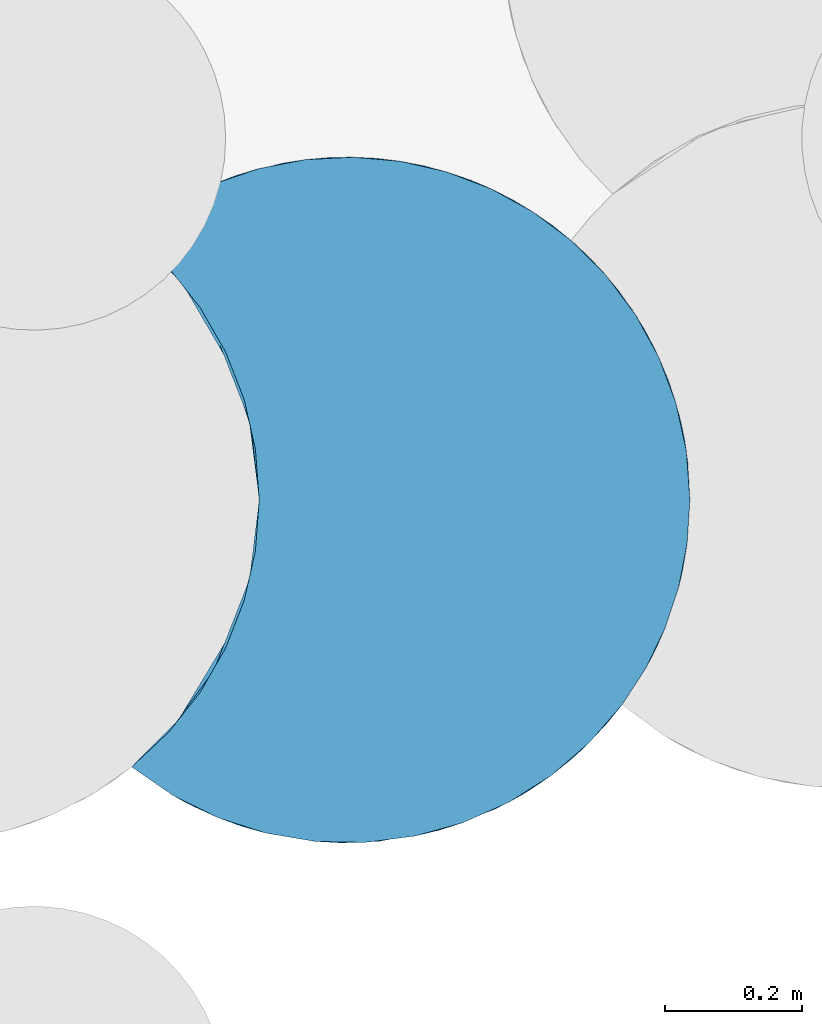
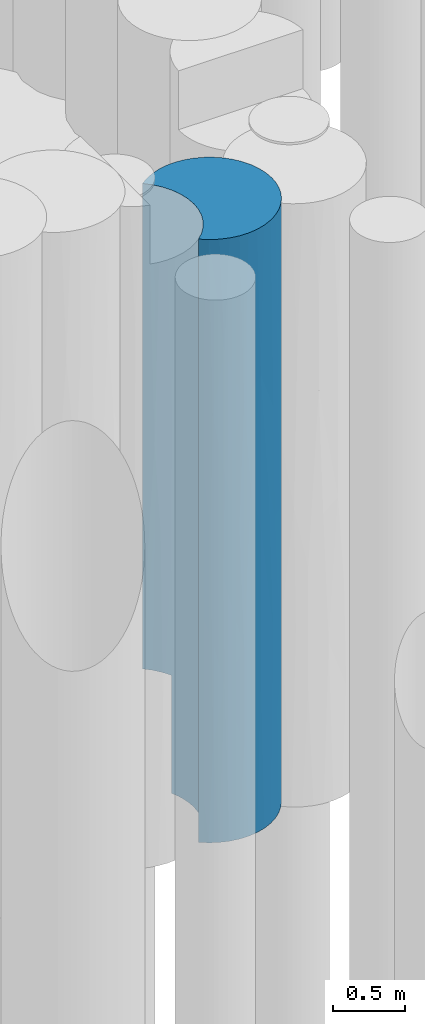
# One storey, part 24 of 104: 1 pile.
"""IFC2X3 building model written with IfcOpenShell, lengths in millimetres."""

from ifc_helpers import new_model, entity, si_unit, converted_unit, derived_unit, direction, frame, origin, place, context, subcontext, project, spatial, faceted_brep, source, transform, mapped, material, element, save


model = new_model("IFC2X3")

# Units and contexts
model_context = context("Model", 3, precision=0.01, world=origin(), true_north=direction((6.12303176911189e-17, 1.0)))
body_context = subcontext(model_context, "Body", "Model", "MODEL_VIEW")
ifc_project = project(units=[si_unit("LENGTHUNIT", "METRE", prefix="MILLI"), si_unit("AREAUNIT", "SQUARE_METRE", prefix="MILLI"), si_unit("VOLUMEUNIT", "CUBIC_METRE"), converted_unit("PLANEANGLEUNIT", "DEGREE", entity("IfcRatioMeasure", 0.0174532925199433), si_unit("PLANEANGLEUNIT", "RADIAN"), dimensions=[0, 0, 0, 0, 0, 0, 0]), si_unit("MASSUNIT", "GRAM", prefix="KILO"), derived_unit("MASSDENSITYUNIT", [(si_unit("MASSUNIT", "GRAM", prefix="KILO"), 1), (si_unit("LENGTHUNIT", "METRE"), -3)]), derived_unit("MOMENTOFINERTIAUNIT", [(si_unit("LENGTHUNIT", "METRE"), 4)]), si_unit("TIMEUNIT", "SECOND"), si_unit("FREQUENCYUNIT", "HERTZ"), si_unit("THERMODYNAMICTEMPERATUREUNIT", "DEGREE_CELSIUS"), derived_unit("THERMALTRANSMITTANCEUNIT", [(si_unit("MASSUNIT", "GRAM", prefix="KILO"), 1), (si_unit("THERMODYNAMICTEMPERATUREUNIT", "KELVIN"), -1), (si_unit("TIMEUNIT", "SECOND"), -3)]), derived_unit("VOLUMETRICFLOWRATEUNIT", [(si_unit("LENGTHUNIT", "METRE"), 3), (si_unit("TIMEUNIT", "SECOND"), -1)]), si_unit("ELECTRICCURRENTUNIT", "AMPERE"), si_unit("ELECTRICVOLTAGEUNIT", "VOLT"), si_unit("POWERUNIT", "WATT"), si_unit("FORCEUNIT", "NEWTON", prefix="KILO"), si_unit("ILLUMINANCEUNIT", "LUX"), si_unit("LUMINOUSFLUXUNIT", "LUMEN"), si_unit("LUMINOUSINTENSITYUNIT", "CANDELA"), derived_unit("USERDEFINED", [(si_unit("MASSUNIT", "GRAM", prefix="KILO"), -1), (si_unit("LENGTHUNIT", "METRE"), -2), (si_unit("TIMEUNIT", "SECOND"), 3), (si_unit("LUMINOUSFLUXUNIT", "LUMEN"), 1)]), derived_unit("LINEARVELOCITYUNIT", [(si_unit("LENGTHUNIT", "METRE"), 1), (si_unit("TIMEUNIT", "SECOND"), -1)]), si_unit("PRESSUREUNIT", "PASCAL"), derived_unit("USERDEFINED", [(si_unit("LENGTHUNIT", "METRE"), -2), (si_unit("MASSUNIT", "GRAM", prefix="KILO"), 1), (si_unit("TIMEUNIT", "SECOND"), -2)]), derived_unit("LINEARFORCEUNIT", [(si_unit("MASSUNIT", "GRAM", prefix="KILO"), 1), (si_unit("LENGTHUNIT", "METRE"), 1), (si_unit("TIMEUNIT", "SECOND"), -2), (si_unit("LENGTHUNIT", "METRE"), -1)]), derived_unit("PLANARFORCEUNIT", [(si_unit("MASSUNIT", "GRAM", prefix="KILO"), 1), (si_unit("LENGTHUNIT", "METRE"), 1), (si_unit("TIMEUNIT", "SECOND"), -2), (si_unit("LENGTHUNIT", "METRE"), -2)])], contexts=[model_context])

# Site, building, storey
site_placement = place(None, origin())
site = spatial("IfcSite", under=ifc_project, at=site_placement, Name="Theater aan de Parade", CompositionType="ELEMENT")
building_placement = place(site_placement, origin())
building = spatial("IfcBuilding", under=site, at=building_placement, Name="Theater aan de Parade", CompositionType="ELEMENT")
storey_placement = place(building_placement, frame((0.0, 0.0, -5520.0)))
storey = spatial("IfcBuildingStorey", under=building, at=storey_placement, Name="-2 kelder", CompositionType="ELEMENT", Elevation=-5520.0)

# Pile
ifc_material = material(Name="00_PBT_MAT_grout")
shared_shape = source(origin(), body_context, "Body", "Brep", [
    faceted_brep([(802.676759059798, 613.817206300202, 0.0), (812.351470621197, 557.756044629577, 0.0), (815.595272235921, 500.894112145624, 0.0), (811.507445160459, 437.088808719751, 0.0), (799.31872967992, 374.357094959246, 0.0), (779.228474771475, 313.693007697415, 0.0), (751.566182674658, 256.089362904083, 0.0), (716.786471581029, 202.494953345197, 0.0), (668.963732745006, 147.155888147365, 0.0), (613.587772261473, 99.3963289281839, 0.0), (551.838271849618, 60.225024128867, 0.0), (485.03597753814, 30.4795637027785, 0.0), (414.609625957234, 10.7960018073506, 0.0), (342.065415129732, 1.5952722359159, 0.0), (268.954822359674, 3.07419647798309, 0.0), (196.841455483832, 15.2012760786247, 0.0), (127.267656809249, 37.7173540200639, 0.0), (61.7215557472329, 70.1411248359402, 0.0), (1.59527223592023, 111.787442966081, 0.0), (55.7556313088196, 162.577766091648, 0.0), (101.797316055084, 220.828643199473, 0.0), (138.705014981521, 285.255525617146, 0.0), (165.664839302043, 354.437671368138, 0.0), (182.082270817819, 426.849475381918, 0.0), (187.595272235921, 500.894112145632, 0.0), (184.351856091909, 557.752676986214, 0.0), (174.676819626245, 613.81694505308, 0.0), (158.690674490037, 668.432531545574, 0.0), (136.594158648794, 720.894112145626, 0.0), (764.594158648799, 720.894112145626, 0.0), (786.69119586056, 668.431065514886, 0.0), (805.825384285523, 599.252829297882, 1039.75634972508), (764.594158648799, 720.894112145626, 1000.0), (58.6019255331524, 929.793190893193, 5120.0), (120.569753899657, 961.290731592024, 5120.0), (153.0447114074, 973.733741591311, 4090.39334880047), (800.033546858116, 624.666314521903, 2060.76883677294), (748.819575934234, 750.527248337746, 2097.97228114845), (806.975217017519, 593.337337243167, 3059.23111048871), (815.595272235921, 500.894112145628, 3558.46227294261), (815.595272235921, 500.894112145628, 2560.0), (815.595272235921, 500.894112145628, 5120.0), (808.008873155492, 587.663033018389, 3949.17916174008), (58.6015014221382, 929.792936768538, 1000.0), (153.044494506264, 973.733667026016, 2180.08766791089), (120.569444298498, 961.290600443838, 1000.0), (323.950264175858, 1000.82430138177, 1000.0), (289.180741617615, 1000.19589721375, 2180.08523891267), (393.252174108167, 994.826704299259, 2154.98836178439), (462.719558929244, 978.758574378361, 3976.74491624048), (525.884942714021, 954.521993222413, 5120.0), (556.906595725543, 938.808310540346, 3718.14073271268), (646.353571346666, 875.859373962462, 3187.27820471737), (688.965437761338, 833.451955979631, 2170.49412444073), (615.309965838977, 901.107933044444, 2380.42968834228), (737.460872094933, 769.277076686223, 3981.33112694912), (783.947191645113, 675.955471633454, 3656.32886688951), (711.496081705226, 806.283288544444, 3057.17326025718), (642.407403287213, 879.303719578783, 1000.0), (586.762276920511, 920.975598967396, 1000.0), (493.847843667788, 968.040792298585, 2104.37299684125), (516.715611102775, 958.66109358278, 2947.87411681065), (1.59527223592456, 890.000781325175, 2561.53770970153), (113.732404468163, 958.334143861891, 3135.24093653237), (815.595272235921, 500.894112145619, 1996.92458813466), (815.595272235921, 500.894112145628, 1561.53772705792), (668.613634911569, 854.981722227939, 4028.47091583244), (525.886385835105, 954.521324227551, 1000.0), (770.236278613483, 708.984369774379, 5120.0), (795.26221047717, 642.031025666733, 5120.0), (731.092088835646, 779.035075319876, 1000.0), (690.116198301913, 832.155452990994, 1000.0), (693.014777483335, 828.849165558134, 5120.0), (735.919918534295, 771.684052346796, 5120.0), (323.647340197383, 1000.82927214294, 3108.40992167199), (358.677872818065, 999.034543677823, 4015.62267224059), (427.343234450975, 988.246544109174, 3059.9989814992), (642.407403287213, 879.303719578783, 5120.0), (220.191650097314, 991.707874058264, 3222.27238627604), (254.857288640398, 997.191298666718, 4129.1863494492), (460.947099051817, 979.300682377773, 1000.0), (1.59527223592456, 890.000781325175, 3558.46229029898), (393.198847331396, 994.83508547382, 1000.0), (186.305939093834, 983.889213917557, 1000.0), (1.59527223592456, 890.000781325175, 5120.0), (254.538993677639, 997.152241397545, 1000.0), (1.59527223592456, 890.000781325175, 1000.0), (586.761014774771, 920.976413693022, 5120.0), (810.485664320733, 572.192778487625, 5120.0), (254.538754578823, 997.152211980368, 5120.0), (186.306057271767, 983.889245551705, 5120.0), (393.197764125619, 994.835255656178, 5120.0), (460.945731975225, 979.301097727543, 5120.0), (323.949590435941, 1000.82431264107, 5120.0), (815.595272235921, 500.894112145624, 780.768852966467), (305.483045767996, 0.996379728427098, 770.54415064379), (87.49342268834, 55.9564241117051, 843.252114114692), (161.642373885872, 25.1856876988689, 1331.96100844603), (305.484727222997, 0.996345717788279, 3697.06347060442), (161.637313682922, 25.1873253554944, 4150.29591850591), (161.637313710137, 25.1873253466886, 3123.93722591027), (450.183125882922, 19.3485694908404, 1257.91352090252), (1.5952722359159, 111.787442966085, 780.769369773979), (570.123842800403, 70.5277487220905, 800.458476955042), (268.954733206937, 3.07420483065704, 5120.0), (196.837931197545, 15.2021377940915, 5120.0), (450.191175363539, 19.350819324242, 3862.08412433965), (414.616323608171, 10.7973549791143, 5120.0), (342.068863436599, 1.59545505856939, 5120.0), (450.183125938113, 19.3485695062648, 2559.99587686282), (305.483045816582, 0.996379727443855, 1611.26468074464), (532.360062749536, 50.3244442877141, 2842.42863657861), (642.150044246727, 122.262390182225, 910.888384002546), (127.261164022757, 37.7199940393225, 5120.0), (61.713051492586, 70.1461371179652, 5120.0), (693.881280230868, 173.938922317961, 2559.99071626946), (714.693236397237, 199.695149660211, 3981.15447006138), (659.192214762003, 137.657080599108, 3333.4929778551), (84.995730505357, 57.2457701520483, 3637.11657207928), (1.5952722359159, 111.787442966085, 3558.46126045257), (79.9534618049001, 59.9032537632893, 1725.32145284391), (766.318507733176, 284.448818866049, 1552.74799066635), (714.683907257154, 199.682788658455, 1138.84262703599), (1.5952722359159, 111.787442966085, 5120.0), (805.053812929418, 398.765091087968, 1388.84672039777), (801.150344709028, 381.57826409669, 2679.02099976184), (803.137623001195, 389.97767418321, 3715.66797879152), (779.233207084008, 313.704728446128, 5120.0), (766.32439720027, 284.461083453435, 3567.18421793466), (570.139366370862, 70.5369300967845, 4319.58110604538), (613.599277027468, 99.4048680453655, 5120.0), (551.849232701, 60.2309004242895, 5120.0), (485.045275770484, 30.4829129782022, 5120.0), (583.441390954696, 78.6874605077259, 3508.81709569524), (642.161295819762, 122.272094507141, 4209.13255625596), (361.580346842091, 3.01322989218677, 2943.44310038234), (267.435108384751, 3.21891825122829, 2654.16667087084), (154.25826730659, 27.6390320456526, 2227.94716794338), (607.850252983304, 95.2008459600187, 2560.01187653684), (716.783141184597, 202.48450471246, 5120.0), (751.573316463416, 256.102067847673, 5120.0), (583.430090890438, 78.6802920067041, 1611.24176479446), (73.2521255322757, 63.5500836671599, 2629.06658270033), (668.974620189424, 147.166764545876, 5120.0), (811.508266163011, 437.09519009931, 5120.0), (799.321253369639, 374.36674286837, 5120.0), (659.184095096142, 137.649400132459, 1786.53384429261), (756.86777331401, 265.780140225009, 2559.97804111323), (1.5952722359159, 111.787442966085, 1996.92252090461), (1.5952722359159, 111.787442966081, 998.46229363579), (177.756804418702, 599.59402282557, 1041.89993739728), (64.0246828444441, 829.985131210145, 2202.18384769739), (171.509567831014, 626.699336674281, 2060.76884075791), (187.595272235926, 500.894112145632, 1561.53772741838), (187.595272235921, 500.894112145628, 2560.0), (65.3428196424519, 828.471264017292, 3953.49462470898), (121.448735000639, 749.43218336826, 4111.01747284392), (101.797316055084, 780.959581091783, 5120.0), (75.7692016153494, 816.046457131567, 3060.0), (175.219548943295, 611.449821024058, 4111.01747585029), (138.705014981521, 716.532698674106, 5120.0), (55.7556313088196, 839.210458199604, 5120.0), (119.427502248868, 752.927691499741, 2235.4470719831), (99.9793152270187, 783.629679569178, 1000.0), (136.594158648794, 720.894112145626, 1000.0), (180.096652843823, 587.163400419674, 3059.23111554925), (187.595272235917, 500.894112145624, 3123.07541191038), (187.595272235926, 500.894112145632, 3558.46227258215), (153.470887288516, 682.442759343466, 3293.52156237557), (187.595272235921, 500.894112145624, 4121.53770595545), (187.595272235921, 500.894112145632, 5120.0), (54.6608621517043, 840.397945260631, 1000.0), (165.664839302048, 647.350552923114, 5120.0), (182.082270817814, 574.938748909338, 5120.0), (79.859244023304, 190.847379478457, 1231.98551262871), (55.7556313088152, 162.577766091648, 5120.0), (101.79731605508, 220.828643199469, 5120.0), (121.448735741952, 252.356042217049, 4144.26353631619), (153.470888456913, 319.345467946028, 1611.47569287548), (121.448735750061, 252.356042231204, 3110.51128800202), (172.561105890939, 379.205410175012, 2678.87366725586), (175.219549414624, 390.338405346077, 914.25521169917), (148.005309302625, 305.900271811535, 797.823024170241), (73.4432422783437, 182.898288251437, 3627.38741208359), (182.082270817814, 426.849475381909, 5120.0), (175.219549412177, 390.33840533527, 3888.01448733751), (65.356655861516, 173.332916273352, 2612.34585309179), (165.664839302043, 354.437671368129, 5120.0), (138.705014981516, 285.255525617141, 5120.0), (179.097549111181, 409.103525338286, 1769.74442609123)], [[[0, 1, 2, 3, 4, 5, 6, 7, 8, 9, 10, 11, 12, 13, 14, 15, 16, 17, 18, 19, 20, 21, 22, 23, 24, 25, 26, 27, 28, 29, 30]], [[31, 30, 32]], [[33, 34, 35]], [[36, 32, 37]], [[38, 39, 40]], [[41, 39, 42]], [[43, 44, 45]], [[46, 47, 48]], [[49, 50, 51]], [[52, 53, 54]], [[1, 0, 31]], [[55, 56, 57]], [[58, 59, 54]], [[54, 60, 61]], [[30, 29, 32]], [[62, 63, 44]], [[38, 42, 39]], [[2, 1, 31]], [[58, 54, 53]], [[53, 57, 37]], [[36, 40, 64, 65]], [[66, 55, 57]], [[60, 59, 67]], [[68, 69, 56]], [[70, 71, 53]], [[68, 56, 55]], [[55, 72, 73]], [[74, 75, 76]], [[42, 38, 56]], [[72, 66, 77]], [[74, 78, 79]], [[32, 70, 37]], [[57, 56, 37]], [[80, 60, 67]], [[63, 62, 81]], [[48, 82, 46]], [[83, 45, 44]], [[48, 80, 82]], [[84, 33, 81]], [[85, 83, 47]], [[43, 86, 62]], [[44, 43, 62]], [[48, 76, 60]], [[47, 83, 44]], [[66, 87, 77]], [[42, 69, 88]], [[47, 44, 78]], [[47, 46, 85]], [[52, 51, 66]], [[36, 31, 32]], [[89, 79, 90]], [[61, 60, 76]], [[51, 50, 87]], [[52, 66, 57]], [[61, 49, 51]], [[91, 92, 49]], [[59, 60, 54]], [[63, 78, 44]], [[91, 75, 93]], [[74, 79, 75]], [[79, 93, 75]], [[56, 36, 37]], [[36, 65, 31]], [[34, 90, 35]], [[33, 35, 81]], [[63, 35, 78]], [[87, 66, 51]], [[40, 36, 38]], [[49, 76, 75]], [[36, 56, 38]], [[78, 35, 79]], [[81, 35, 63]], [[69, 42, 56]], [[41, 42, 88]], [[72, 55, 66]], [[68, 55, 73]], [[90, 79, 35]], [[93, 79, 89]], [[91, 49, 75]], [[50, 49, 92]], [[48, 74, 76]], [[47, 78, 74]], [[48, 60, 80]], [[74, 48, 47]], [[31, 65, 94, 2]], [[31, 0, 30]], [[70, 53, 37]], [[58, 53, 71]], [[49, 61, 76]], [[61, 51, 52]], [[53, 52, 57]], [[52, 54, 61]], [[13, 95, 14]], [[96, 16, 97]], [[15, 14, 95]], [[98, 99, 100]], [[101, 95, 12]], [[96, 102, 17]], [[12, 11, 101]], [[11, 10, 103]], [[99, 104, 105]], [[106, 107, 108]], [[95, 101, 109, 110]], [[106, 109, 111]], [[8, 112, 9]], [[99, 113, 114]], [[115, 116, 117]], [[118, 114, 119]], [[101, 11, 103]], [[120, 96, 97]], [[95, 97, 15]], [[6, 121, 122]], [[100, 99, 118]], [[114, 123, 119]], [[105, 113, 99]], [[124, 125, 121]], [[126, 127, 128]], [[104, 99, 98]], [[129, 130, 131]], [[132, 107, 106]], [[106, 108, 98]], [[129, 106, 133]], [[133, 117, 134]], [[115, 122, 121]], [[135, 106, 98]], [[103, 9, 112]], [[110, 136, 137]], [[121, 6, 5]], [[3, 2, 94]], [[3, 94, 124]], [[115, 117, 138]], [[124, 94, 65, 64]], [[136, 98, 100]], [[139, 116, 140]], [[141, 109, 101]], [[100, 118, 142]], [[3, 124, 4]], [[98, 108, 104]], [[134, 143, 130]], [[39, 126, 125]], [[133, 134, 129]], [[134, 117, 116]], [[5, 4, 124]], [[128, 125, 126]], [[126, 144, 145]], [[143, 134, 116]], [[140, 128, 127]], [[129, 132, 106]], [[142, 120, 137]], [[144, 39, 41]], [[136, 135, 98]], [[122, 115, 146]], [[121, 147, 115]], [[111, 141, 138]], [[103, 112, 141]], [[102, 18, 17]], [[16, 15, 97]], [[8, 7, 122]], [[146, 141, 112]], [[95, 13, 12]], [[97, 95, 110]], [[125, 124, 64]], [[124, 121, 5]], [[125, 64, 40, 39]], [[125, 128, 147]], [[138, 117, 133]], [[116, 115, 128]], [[140, 116, 128]], [[143, 116, 139]], [[111, 138, 133]], [[138, 141, 146]], [[146, 112, 122]], [[138, 146, 115]], [[8, 122, 112]], [[6, 122, 7]], [[114, 118, 99]], [[142, 119, 148]], [[119, 142, 118]], [[120, 142, 148]], [[120, 148, 149, 102]], [[137, 120, 97]], [[110, 137, 97]], [[142, 137, 100]], [[102, 96, 120]], [[16, 96, 17]], [[106, 111, 133]], [[141, 111, 109]], [[130, 129, 134]], [[129, 131, 132]], [[101, 103, 141]], [[9, 103, 10]], [[144, 126, 39]], [[127, 126, 145]], [[125, 147, 121]], [[128, 115, 147]], [[137, 136, 100]], [[135, 110, 109]], [[110, 135, 136]], [[106, 135, 109]], [[24, 150, 25]], [[151, 62, 86]], [[152, 153, 154]], [[155, 156, 157]], [[81, 62, 158]], [[150, 26, 25]], [[156, 159, 160]], [[84, 155, 161]], [[162, 163, 164]], [[165, 154, 166, 167]], [[159, 156, 168]], [[159, 167, 169, 170]], [[164, 27, 150]], [[162, 168, 158]], [[162, 164, 152]], [[150, 152, 164]], [[158, 62, 151]], [[171, 163, 151]], [[162, 152, 168]], [[160, 159, 172]], [[173, 172, 159]], [[165, 168, 152]], [[167, 159, 165]], [[157, 156, 160]], [[151, 162, 158]], [[173, 159, 170]], [[150, 153, 152]], [[27, 164, 28]], [[81, 158, 155]], [[155, 158, 156]], [[156, 158, 168]], [[154, 165, 152]], [[168, 165, 159]], [[81, 155, 84]], [[161, 155, 157]], [[24, 153, 150]], [[27, 26, 150]], [[162, 151, 163]], [[171, 151, 86]], [[174, 20, 19]], [[175, 176, 177]], [[178, 179, 180]], [[181, 182, 178]], [[19, 18, 102, 149]], [[123, 175, 119]], [[149, 174, 19]], [[22, 182, 181]], [[119, 175, 183]], [[183, 177, 179]], [[184, 169, 185]], [[23, 22, 181]], [[179, 177, 185]], [[185, 166, 180]], [[186, 183, 179]], [[21, 20, 182]], [[185, 187, 184]], [[186, 178, 174]], [[182, 20, 174]], [[176, 188, 177]], [[187, 185, 177]], [[181, 153, 24]], [[185, 169, 167, 166]], [[180, 166, 189]], [[179, 178, 186]], [[188, 187, 177]], [[170, 169, 184]], [[23, 181, 24]], [[153, 181, 189]], [[185, 180, 179]], [[181, 178, 189]], [[177, 183, 175]], [[148, 119, 186]], [[183, 186, 119]], [[148, 186, 174]], [[189, 166, 154, 153]], [[189, 178, 180]], [[178, 182, 174]], [[21, 182, 22]], [[149, 148, 174]], [[161, 157, 160, 172, 173, 170, 184, 187, 188, 176, 175, 123, 114, 113, 105, 104, 108, 107, 132, 131, 130, 143, 139, 140, 127, 145, 144, 41, 88, 69, 68, 73, 72, 77, 87, 50, 92, 91, 93, 89, 90, 34, 33, 84]], [[43, 45, 83, 85, 46, 82, 80, 67, 59, 58, 71, 70, 32, 164, 163, 171, 86]], [[32, 29, 28, 164]]]),
])
pile_placement = place(storey_placement, frame((38406.2628578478, 22161.4732912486, -3840.0)))
element("IfcPile", 1, at=pile_placement, inside=storey, material=ifc_material, Name="17_PBT_SFO_grondkering_rond:Ø1000 (grondkering)", ObjectType="17_PBT_SFO_grondkering_rond:Ø1000 (grondkering)", PredefinedType="NOTDEFINED", context=body_context, shape_type="MappedRepresentation", body=[
    mapped(shared_shape, transform((0.0, 0.0, 0.0), scale=1.0)),
])

save(model, "model.ifc")
